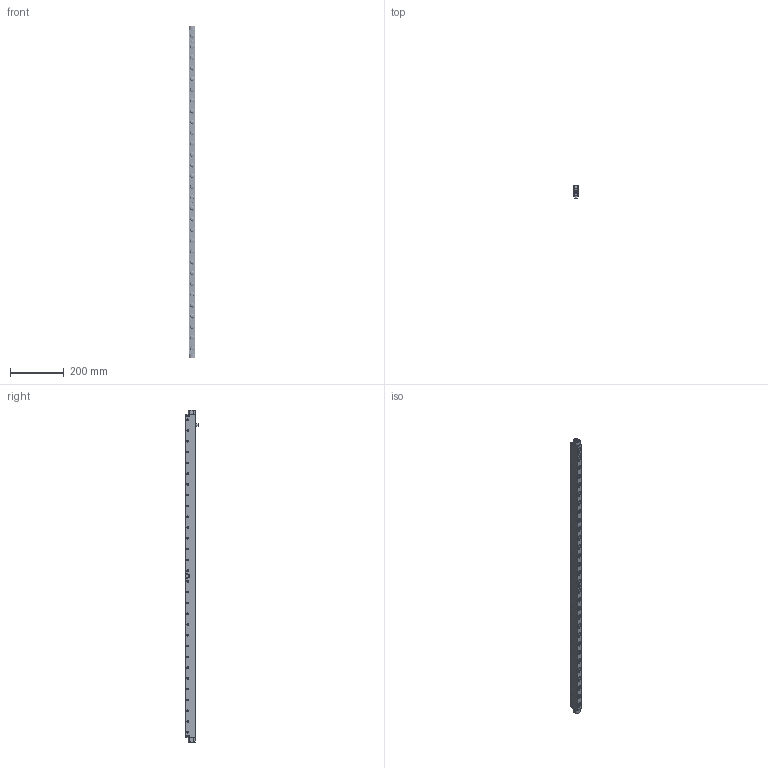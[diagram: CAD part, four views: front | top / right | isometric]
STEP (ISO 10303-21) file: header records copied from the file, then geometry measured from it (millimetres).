
FILE_DESCRIPTION(/* description */ (''),/* implementation_level */ '2;1');
FILE_NAME(/* name */ 'S:\EASCN Vault\Designs\Standard Part\DIE LIFTERS\EHR\EHR- 3D step\EHR22-C - 3D step complete serie\EHR22-30-C.stp',/* time_stamp */ '2019-09-16T10:38:58+08:00',/* author */ ('yue.yang'),/* organization */ (''),/* preprocessor_version */ 'ST-DEVELOPER v17',/* originating_system */ 'Autodesk Inventor 2019',/* authorisation */ '');
FILE_SCHEMA (('AUTOMOTIVE_DESIGN { 1 0 10303 214 3 1 1 }'));
Products named in the file (1): EHR22-30-C_Shrinkwrap_1
Bounding box: 21.8 x 48.05 x 1232 mm (x, y, z)
Volume: 747972.8 mm3; surface area: 289323.8 mm2
Topology: 31 solids, 31 shells, 1658 faces, 4802 edges, 3344 vertices
Faces by surface type: cylinder 589, plane 397, cone 341, torus 270, sphere 61
Full cylindrical faces by diameter (mm): 3 x10, 3.2 x8, 4 x16, 5 x105, 6 x40, 8.566 x2, 10 x6, 11 x30, 12.5 x60, 13.4 x30, 13.8 x30, 15.95 x60, 16 x60
Entity records: 61719 total; most frequent: CARTESIAN_POINT 13788, DIRECTION 10714, ORIENTED_EDGE 9526, EDGE_CURVE 4763, AXIS2_PLACEMENT_3D 4758, VERTEX_POINT 3344, CIRCLE 3099, EDGE_LOOP 1997
